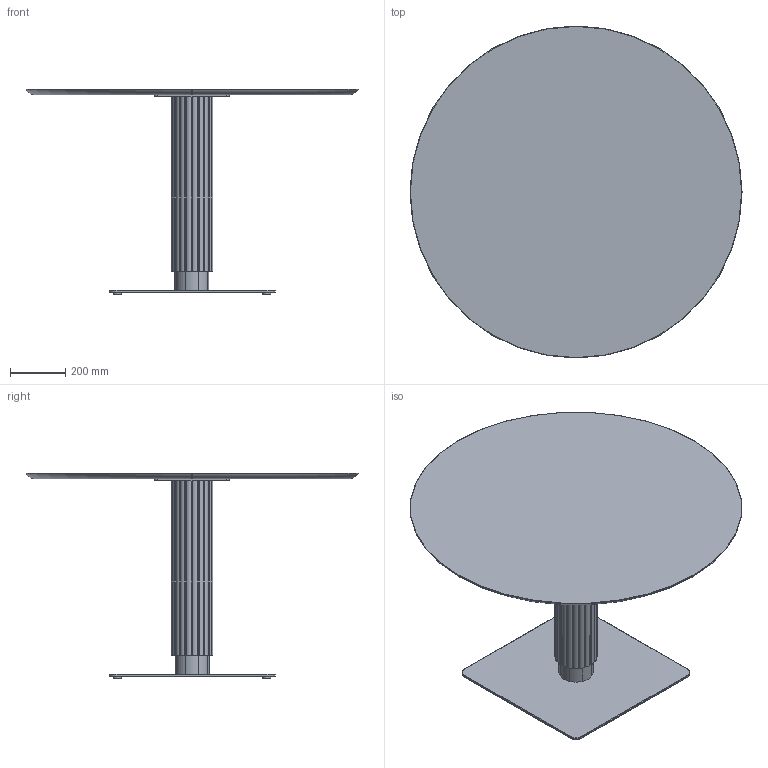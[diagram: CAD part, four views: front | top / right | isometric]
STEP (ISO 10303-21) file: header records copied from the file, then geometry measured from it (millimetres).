
FILE_DESCRIPTION( ('This file contains a STEP AP42 implementation' ,'as created by ZW3D STEP Interface translator.') ,'2;1' );
FILE_NAME( 'Godron - B_Carré - F1 - M3 - 1200 x 1200 x 750.stp' ,'24 912. 94624', (''), ('ZWCAD Software Co.'), 'Version 1.0', 'ZW3D to STEP translator', '' );
FILE_SCHEMA(('AUTOMOTIVE_DESIGN { 1 0 10303 214 1 1 1 1 }'));
Length unit declared in the file: millimetre
Products named in the file (15): 0; PIED BISTROT PARAMETRIQUE_; CROIX ACIER 370 V.02_; CRX-X370-02_; SOCLE ACIER L 600x600 V.02_; SCL-R600-02_; PLA-R30A-01_; PLA-R30A-01; COLONNE ACIER Ø48.5 V.02_; TUB-D048-02_; PLA-R48A-01_; Colonne GODRON H700_; WUERTH 0276063020 Euro-screw 6.3x2 Verzinkt_; PLATEAU BISTROT PARAMETRIQUE_; insert_m6_13_
Assembly tree (23 placements, depth 3):
  0
  PIED BISTROT PARAMETRIQUE_
    CROIX ACIER 370 V.02_
      CRX-X370-02_
    SOCLE ACIER L 600x600 V.02_
      SCL-R600-02_
      PLA-R30A-01_
      PLA-R30A-01  x3
    COLONNE ACIER Ø48.5 V.02_
      TUB-D048-02_
      PLA-R48A-01_  x2
    Colonne GODRON H700_
    WUERTH 0276063020 Euro-screw 6.3x2 Verzinkt_
    PLATEAU BISTROT PARAMETRIQUE_
      insert_m6_13_  x8
Bounding box: 1200 x 1200 x 744 mm (x, y, z)
Volume: 35978578.1 mm3; surface area: 4443731 mm2
Topology: 27 solids, 27 shells, 669 faces, 1662 edges, 1062 vertices
Faces by surface type: plane 298, cylinder 196, bspline 121, cone 49, torus 5
Full cylindrical faces by diameter (mm): 4.88 x1, 6 x8, 6.3 x1, 8 x45, 12 x2, 14 x2, 30 x4, 44.5 x3, 48.5 x1
Entity records: 16818 total; most frequent: CARTESIAN_POINT 4133, DIRECTION 2352, ORIENTED_EDGE 2338, EDGE_CURVE 1169, AXIS2_PLACEMENT_3D 837, VERTEX_POINT 756, VECTOR 678, LINE 678
